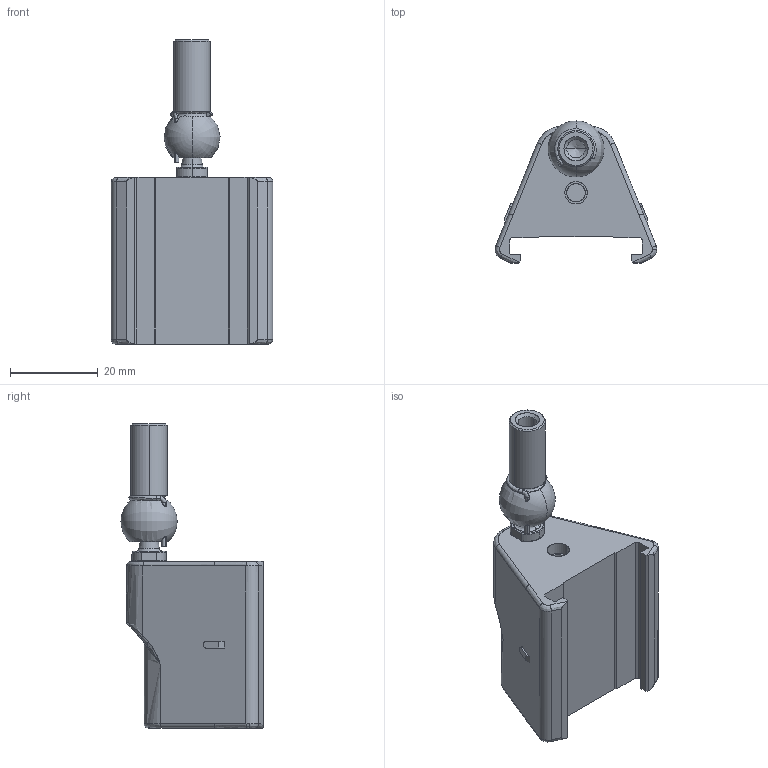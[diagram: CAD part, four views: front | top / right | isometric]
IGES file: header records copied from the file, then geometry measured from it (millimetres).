
Start section: SolidWorks IGES file using analytic representation for surfaces
Global section: file name: C:\Users\diego.babaglioni\Desktop\Cursori a slitta WPP_WPA\PCUR211\PCUR211.IGS; native system: SolidWorks 2019; preprocessor: SolidWorks 2019; author: diego.babaglioni; date: 190508.092218; units: millimetre
Bounding box: 36.91 x 32.4 x 69.38 mm (x, y, z)
Surface area: 9393.4 mm2 (no closed solid volume)
Topology: 0 solids, 0 shells, 191 faces, 2173 edges, 2168 vertices
Faces by surface type: bspline 115, revolution 76
